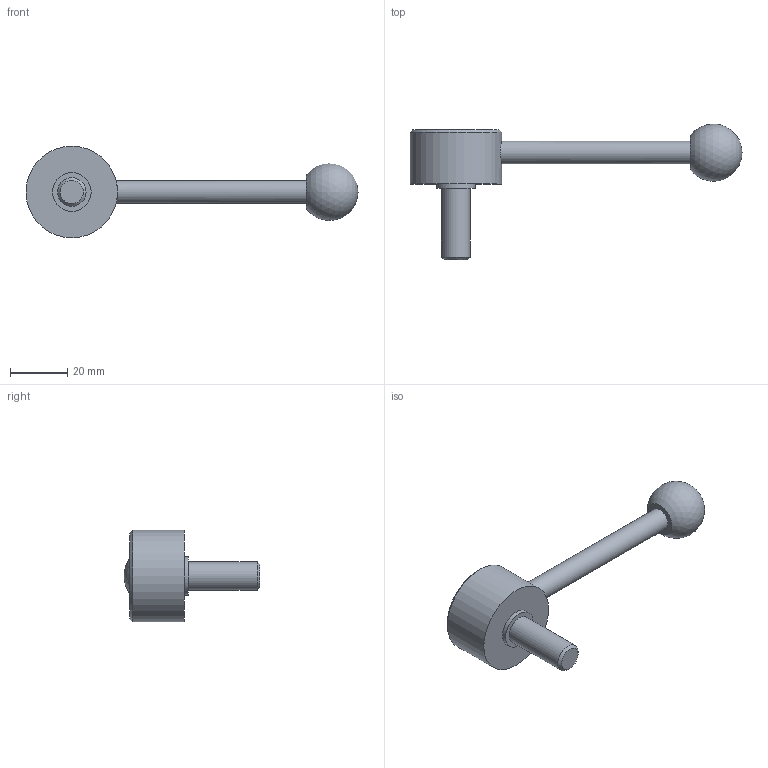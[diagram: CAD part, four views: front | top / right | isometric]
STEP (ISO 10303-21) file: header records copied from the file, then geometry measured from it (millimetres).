
FILE_DESCRIPTION( ( 'STEP AP203' ), '1' );
FILE_NAME( 'C:/Temp/Ganter_Step_05_03_2020/data/2_1/gn_125/gn_125_ms/gn_125_ms_d/Flat Adjustable Lever GN 125-32-M10-25-D.stp', '2020-03-05T11:00:46', ( 'License CC BY-ND 4.0' ), ( 'CADENAS' ), ' ', 'PARTsolutions', ' ' );
FILE_SCHEMA( ( 'CONFIG_CONTROL_DESIGN' ) );
Length unit declared in the file: millimetre
Products named in the file (1): _Flat Adjustable Lever GN 125-32-M10-25-D
Bounding box: 116 x 47.43 x 32 mm (x, y, z)
Volume: 24697.7 mm3; surface area: 7114.9 mm2
Topology: 1 solids, 1 shells, 14 faces, 23 edges, 15 vertices
Faces by surface type: plane 6, cylinder 5, cone 2, sphere 1
Full cylindrical faces by diameter (mm): 8 x1, 10 x1, 13.5 x1, 22 x1, 32 x1
Entity records: 384 total; most frequent: CARTESIAN_POINT 107, DIRECTION 54, AXIS2_PLACEMENT_3D 27, EDGE_LOOP 26, ORIENTED_EDGE 26, FACE_OUTER_BOUND 19, ADVANCED_FACE 14, VERTEX_POINT 14
